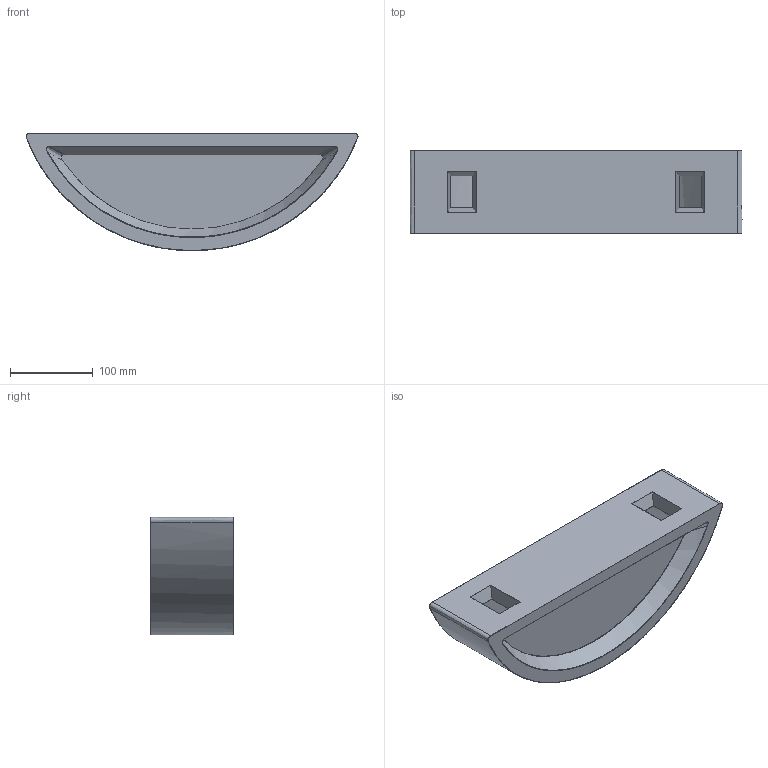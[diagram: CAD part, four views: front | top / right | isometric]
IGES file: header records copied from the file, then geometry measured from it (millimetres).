
Start section: SolidWorks IGES file using analytic representation for surfaces
Global section: file name: E:\3D lampy\Gips_³uk_arch\Gipsy £uk S.IGS; native system: SolidWorks 2016; preprocessor: SolidWorks 2016; author: Asia; date: 170809.150442; units: millimetre
Bounding box: 401.25 x 100 x 142 mm (x, y, z)
Surface area: 371217.4 mm2 (no closed solid volume)
Topology: 0 solids, 0 shells, 315 faces, 3010 edges, 3000 vertices
Faces by surface type: bspline 220, revolution 95
